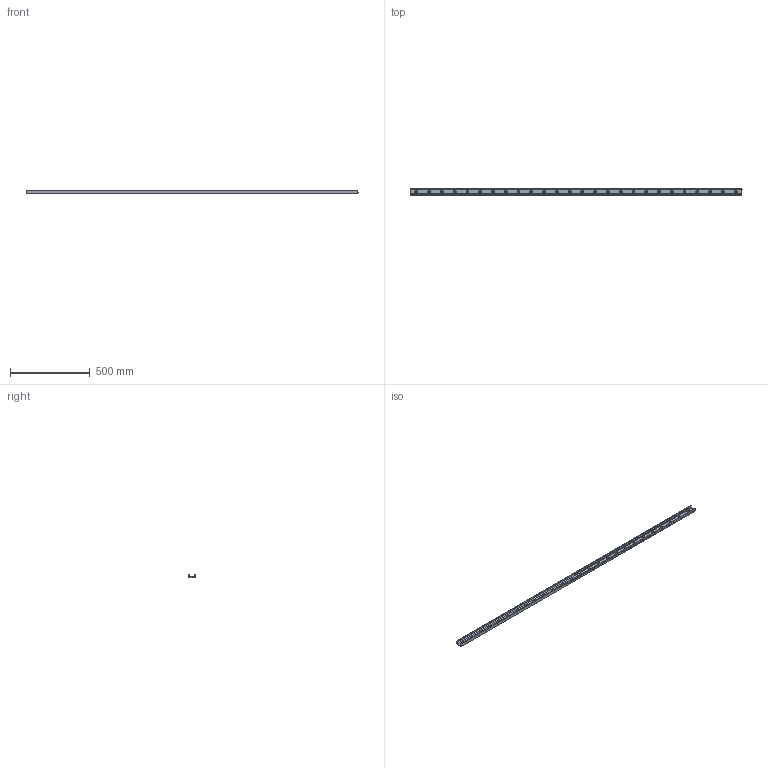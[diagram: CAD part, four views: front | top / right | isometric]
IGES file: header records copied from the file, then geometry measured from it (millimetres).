
Start section: SolidWorks IGES file using analytic representation for surfaces
Global section: file name: C:\Users\IanO\Desktop\43\L1943.ULC43_v2_20180121_IGES\L1943.ULC43-2080.igs; native system: SolidWorks 2017; preprocessor: SolidWorks 2017; author: IanO; date: 190121.084913; units: millimetre
Bounding box: 2080 x 43 x 21 mm (x, y, z)
Surface area: 326382.6 mm2 (no closed solid volume)
Topology: 0 solids, 0 shells, 156 faces, 4038 edges, 4038 vertices
Faces by surface type: revolution 117, bspline 39
